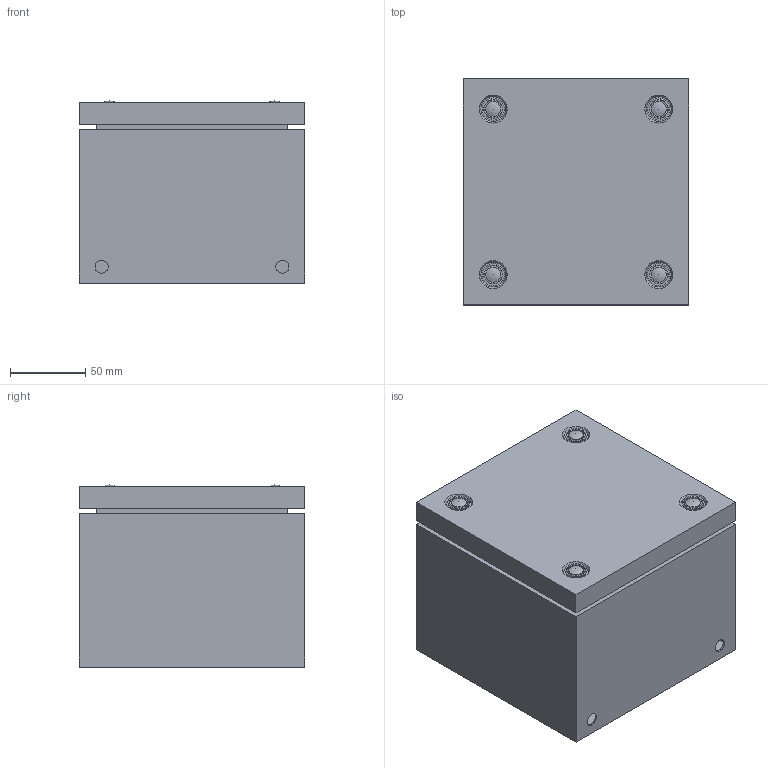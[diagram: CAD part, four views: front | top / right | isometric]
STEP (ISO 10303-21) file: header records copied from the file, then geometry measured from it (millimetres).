
FILE_DESCRIPTION( ( 'STEP AP214' ), '1' );
FILE_NAME( 'p:/temp/worker_206/temp/exporttempdir_1084_377_y2zAy/format_0/STB151512(0).stp', '2021-03-16T12:17:24', ( 'License CC BY-ND 4.0' ), ( 'CADENAS' ), ' ', 'PARTsolutions', ' ' );
FILE_SCHEMA( ( 'AUTOMOTIVE_DESIGN { 1 0 10303 214 1 1 1 1 }' ) );
Length unit declared in the file: millimetre
Products named in the file (4): STB151512(0); _STB151512(0)_01; _STB1515XX(0)_02; _STBXXXXXX(0)_03
Assembly tree (6 placements, depth 2):
  STB151512(0)
    _STB151512(0)_01
    _STB1515XX(0)_02
    _STBXXXXXX(0)_03  x4
Bounding box: 150 x 150 x 120.9 mm (x, y, z)
Volume: 178276.1 mm3; surface area: 265297.4 mm2
Topology: 6 solids, 6 shells, 251 faces, 569 edges, 369 vertices
Faces by surface type: plane 147, cylinder 62, cone 38, sphere 4
Full cylindrical faces by diameter (mm): 3.2 x4, 3.5 x4, 6 x4, 7 x4, 7.5 x4, 8 x2, 8.5 x4, 8.7 x6, 10 x4, 14 x2
Entity records: 7390 total; most frequent: DIRECTION 986, CARTESIAN_POINT 975, ORIENTED_EDGE 860, EDGE_CURVE 430, AXIS2_PLACEMENT_3D 351, EDGE_LOOP 310, VERTEX_POINT 308, LINE 284
